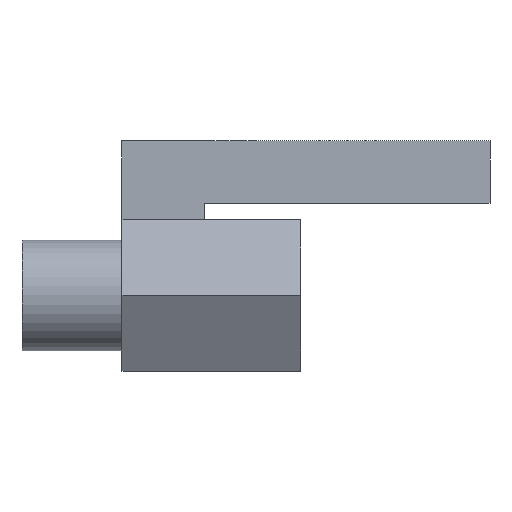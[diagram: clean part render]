
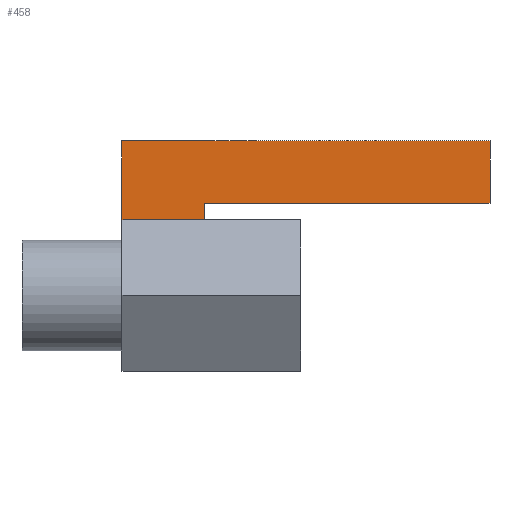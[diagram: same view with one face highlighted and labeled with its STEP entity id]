
A CAD part, front view. The second image highlights one B-rep face of the part: STEP entity #458.
In plain terms, the highlighted planar face has unit normal (0, -1, 0).
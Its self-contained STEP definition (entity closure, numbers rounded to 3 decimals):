
#92 = PLANE('',#93);
#93 = AXIS2_PLACEMENT_3D('',#94,#95,#96);
#94 = CARTESIAN_POINT('',(0.28,0.17,1.16));
#95 = DIRECTION('',(0.,0.,1.));
#96 = DIRECTION('',(-1.,0.,0.));
#116 = EDGE_CURVE('',#117,#119,#121,.T.);
#117 = VERTEX_POINT('',#118);
#118 = CARTESIAN_POINT('',(1.42,-0.17,1.16));
#119 = VERTEX_POINT('',#120);
#120 = CARTESIAN_POINT('',(1.42,-0.17,0.69));
#121 = SURFACE_CURVE('',#122,(#126,#138),.PCURVE_S1.);
#122 = LINE('',#123,#124);
#123 = CARTESIAN_POINT('',(1.42,-0.17,1.16));
#124 = VECTOR('',#125,1.);
#125 = DIRECTION('',(0.,0.,-1.));
#126 = PCURVE('',#127,#132);
#127 = PLANE('',#128);
#128 = AXIS2_PLACEMENT_3D('',#129,#130,#131);
#129 = CARTESIAN_POINT('',(1.42,0.17,0.925));
#130 = DIRECTION('',(1.,0.,0.));
#131 = DIRECTION('',(0.,0.,1.));
#132 = DEFINITIONAL_REPRESENTATION('',(#133),#137);
#133 = LINE('',#134,#135);
#134 = CARTESIAN_POINT('',(0.235,0.34));
#135 = VECTOR('',#136,1.);
#136 = DIRECTION('',(-1.,0.));
#137 = ( GEOMETRIC_REPRESENTATION_CONTEXT(2) 
PARAMETRIC_REPRESENTATION_CONTEXT() REPRESENTATION_CONTEXT('2D SPACE',''
  ) );
#138 = PCURVE('',#139,#144);
#139 = PLANE('',#140);
#140 = AXIS2_PLACEMENT_3D('',#141,#142,#143);
#141 = CARTESIAN_POINT('',(0.001,-0.17,0.903));
#142 = DIRECTION('',(0.,1.,0.));
#143 = DIRECTION('',(0.,-0.,1.));
#144 = DEFINITIONAL_REPRESENTATION('',(#145),#149);
#145 = LINE('',#146,#147);
#146 = CARTESIAN_POINT('',(0.257,1.419));
#147 = VECTOR('',#148,1.);
#148 = DIRECTION('',(-1.,0.));
#149 = ( GEOMETRIC_REPRESENTATION_CONTEXT(2) 
PARAMETRIC_REPRESENTATION_CONTEXT() REPRESENTATION_CONTEXT('2D SPACE',''
  ) );
#167 = PLANE('',#168);
#168 = AXIS2_PLACEMENT_3D('',#169,#170,#171);
#169 = CARTESIAN_POINT('',(0.35,0.17,0.69));
#170 = DIRECTION('',(0.,0.,-1.));
#171 = DIRECTION('',(1.,0.,0.));
#231 = EDGE_CURVE('',#119,#232,#234,.T.);
#232 = VERTEX_POINT('',#233);
#233 = CARTESIAN_POINT('',(-0.72,-0.17,0.69));
#234 = SURFACE_CURVE('',#235,(#239,#246),.PCURVE_S1.);
#235 = LINE('',#236,#237);
#236 = CARTESIAN_POINT('',(1.42,-0.17,0.69));
#237 = VECTOR('',#238,1.);
#238 = DIRECTION('',(-1.,0.,0.));
#239 = PCURVE('',#167,#240);
#240 = DEFINITIONAL_REPRESENTATION('',(#241),#245);
#241 = LINE('',#242,#243);
#242 = CARTESIAN_POINT('',(1.07,0.34));
#243 = VECTOR('',#244,1.);
#244 = DIRECTION('',(-1.,0.));
#245 = ( GEOMETRIC_REPRESENTATION_CONTEXT(2) 
PARAMETRIC_REPRESENTATION_CONTEXT() REPRESENTATION_CONTEXT('2D SPACE',''
  ) );
#246 = PCURVE('',#139,#247);
#247 = DEFINITIONAL_REPRESENTATION('',(#248),#252);
#248 = LINE('',#249,#250);
#249 = CARTESIAN_POINT('',(-0.213,1.419));
#250 = VECTOR('',#251,1.);
#251 = DIRECTION('',(0.,-1.));
#252 = ( GEOMETRIC_REPRESENTATION_CONTEXT(2) 
PARAMETRIC_REPRESENTATION_CONTEXT() REPRESENTATION_CONTEXT('2D SPACE',''
  ) );
#270 = PLANE('',#271);
#271 = AXIS2_PLACEMENT_3D('',#272,#273,#274);
#272 = CARTESIAN_POINT('',(-0.72,0.17,0.629));
#273 = DIRECTION('',(1.,0.,0.));
#274 = DIRECTION('',(0.,0.,1.));
#307 = EDGE_CURVE('',#232,#308,#310,.T.);
#308 = VERTEX_POINT('',#309);
#309 = CARTESIAN_POINT('',(-0.72,-0.17,0.568));
#310 = SURFACE_CURVE('',#311,(#315,#322),.PCURVE_S1.);
#311 = LINE('',#312,#313);
#312 = CARTESIAN_POINT('',(-0.72,-0.17,0.69));
#313 = VECTOR('',#314,1.);
#314 = DIRECTION('',(0.,0.,-1.));
#315 = PCURVE('',#270,#316);
#316 = DEFINITIONAL_REPRESENTATION('',(#317),#321);
#317 = LINE('',#318,#319);
#318 = CARTESIAN_POINT('',(0.061,0.34));
#319 = VECTOR('',#320,1.);
#320 = DIRECTION('',(-1.,0.));
#321 = ( GEOMETRIC_REPRESENTATION_CONTEXT(2) 
PARAMETRIC_REPRESENTATION_CONTEXT() REPRESENTATION_CONTEXT('2D SPACE',''
  ) );
#322 = PCURVE('',#139,#323);
#323 = DEFINITIONAL_REPRESENTATION('',(#324),#328);
#324 = LINE('',#325,#326);
#325 = CARTESIAN_POINT('',(-0.213,-0.721));
#326 = VECTOR('',#327,1.);
#327 = DIRECTION('',(-1.,0.));
#328 = ( GEOMETRIC_REPRESENTATION_CONTEXT(2) 
PARAMETRIC_REPRESENTATION_CONTEXT() REPRESENTATION_CONTEXT('2D SPACE',''
  ) );
#346 = PLANE('',#347);
#347 = AXIS2_PLACEMENT_3D('',#348,#349,#350);
#348 = CARTESIAN_POINT('',(0.,0.,0.568));
#349 = DIRECTION('',(0.,0.,1.));
#350 = DIRECTION('',(0.,1.,0.));
#386 = EDGE_CURVE('',#387,#117,#389,.T.);
#387 = VERTEX_POINT('',#388);
#388 = CARTESIAN_POINT('',(-1.34,-0.17,1.16));
#389 = SURFACE_CURVE('',#390,(#394,#401),.PCURVE_S1.);
#390 = LINE('',#391,#392);
#391 = CARTESIAN_POINT('',(-1.34,-0.17,1.16));
#392 = VECTOR('',#393,1.);
#393 = DIRECTION('',(1.,0.,0.));
#394 = PCURVE('',#92,#395);
#395 = DEFINITIONAL_REPRESENTATION('',(#396),#400);
#396 = LINE('',#397,#398);
#397 = CARTESIAN_POINT('',(1.62,0.34));
#398 = VECTOR('',#399,1.);
#399 = DIRECTION('',(-1.,0.));
#400 = ( GEOMETRIC_REPRESENTATION_CONTEXT(2) 
PARAMETRIC_REPRESENTATION_CONTEXT() REPRESENTATION_CONTEXT('2D SPACE',''
  ) );
#401 = PCURVE('',#139,#402);
#402 = DEFINITIONAL_REPRESENTATION('',(#403),#407);
#403 = LINE('',#404,#405);
#404 = CARTESIAN_POINT('',(0.257,-1.341));
#405 = VECTOR('',#406,1.);
#406 = DIRECTION('',(0.,1.));
#407 = ( GEOMETRIC_REPRESENTATION_CONTEXT(2) 
PARAMETRIC_REPRESENTATION_CONTEXT() REPRESENTATION_CONTEXT('2D SPACE',''
  ) );
#447 = PLANE('',#448);
#448 = AXIS2_PLACEMENT_3D('',#449,#450,#451);
#449 = CARTESIAN_POINT('',(-1.34,0.,0.)
  );
#450 = DIRECTION('',(-1.,0.,0.));
#451 = DIRECTION('',(0.,0.,1.));
#458 = ADVANCED_FACE('',(#459),#139,.F.);
#459 = FACE_BOUND('',#460,.T.);
#460 = EDGE_LOOP('',(#461,#462,#463,#486,#507,#508));
#461 = ORIENTED_EDGE('',*,*,#116,.F.);
#462 = ORIENTED_EDGE('',*,*,#386,.F.);
#463 = ORIENTED_EDGE('',*,*,#464,.F.);
#464 = EDGE_CURVE('',#465,#387,#467,.T.);
#465 = VERTEX_POINT('',#466);
#466 = CARTESIAN_POINT('',(-1.34,-0.17,0.568));
#467 = SURFACE_CURVE('',#468,(#472,#479),.PCURVE_S1.);
#468 = LINE('',#469,#470);
#469 = CARTESIAN_POINT('',(-1.34,-0.17,0.568));
#470 = VECTOR('',#471,1.);
#471 = DIRECTION('',(0.,0.,1.));
#472 = PCURVE('',#139,#473);
#473 = DEFINITIONAL_REPRESENTATION('',(#474),#478);
#474 = LINE('',#475,#476);
#475 = CARTESIAN_POINT('',(-0.335,-1.341));
#476 = VECTOR('',#477,1.);
#477 = DIRECTION('',(1.,0.));
#478 = ( GEOMETRIC_REPRESENTATION_CONTEXT(2) 
PARAMETRIC_REPRESENTATION_CONTEXT() REPRESENTATION_CONTEXT('2D SPACE',''
  ) );
#479 = PCURVE('',#447,#480);
#480 = DEFINITIONAL_REPRESENTATION('',(#481),#485);
#481 = LINE('',#482,#483);
#482 = CARTESIAN_POINT('',(0.568,-0.17));
#483 = VECTOR('',#484,1.);
#484 = DIRECTION('',(1.,0.));
#485 = ( GEOMETRIC_REPRESENTATION_CONTEXT(2) 
PARAMETRIC_REPRESENTATION_CONTEXT() REPRESENTATION_CONTEXT('2D SPACE',''
  ) );
#486 = ORIENTED_EDGE('',*,*,#487,.F.);
#487 = EDGE_CURVE('',#308,#465,#488,.T.);
#488 = SURFACE_CURVE('',#489,(#493,#500),.PCURVE_S1.);
#489 = LINE('',#490,#491);
#490 = CARTESIAN_POINT('',(0.001,-0.17,0.568));
#491 = VECTOR('',#492,1.);
#492 = DIRECTION('',(-1.,0.,0.));
#493 = PCURVE('',#139,#494);
#494 = DEFINITIONAL_REPRESENTATION('',(#495),#499);
#495 = LINE('',#496,#497);
#496 = CARTESIAN_POINT('',(-0.335,-0.001));
#497 = VECTOR('',#498,1.);
#498 = DIRECTION('',(0.,-1.));
#499 = ( GEOMETRIC_REPRESENTATION_CONTEXT(2) 
PARAMETRIC_REPRESENTATION_CONTEXT() REPRESENTATION_CONTEXT('2D SPACE',''
  ) );
#500 = PCURVE('',#346,#501);
#501 = DEFINITIONAL_REPRESENTATION('',(#502),#506);
#502 = LINE('',#503,#504);
#503 = CARTESIAN_POINT('',(-0.17,-0.001));
#504 = VECTOR('',#505,1.);
#505 = DIRECTION('',(0.,1.));
#506 = ( GEOMETRIC_REPRESENTATION_CONTEXT(2) 
PARAMETRIC_REPRESENTATION_CONTEXT() REPRESENTATION_CONTEXT('2D SPACE',''
  ) );
#507 = ORIENTED_EDGE('',*,*,#307,.F.);
#508 = ORIENTED_EDGE('',*,*,#231,.F.);
